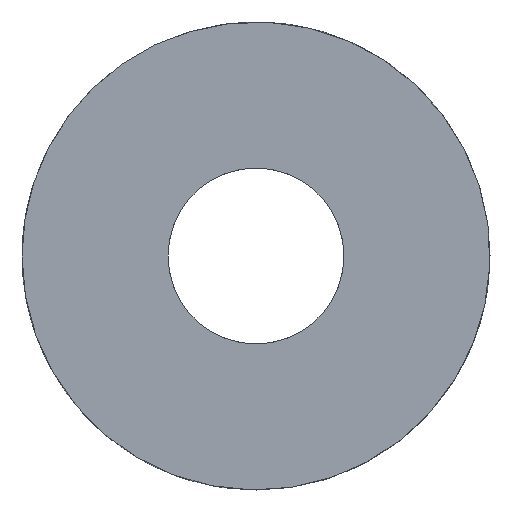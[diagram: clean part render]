
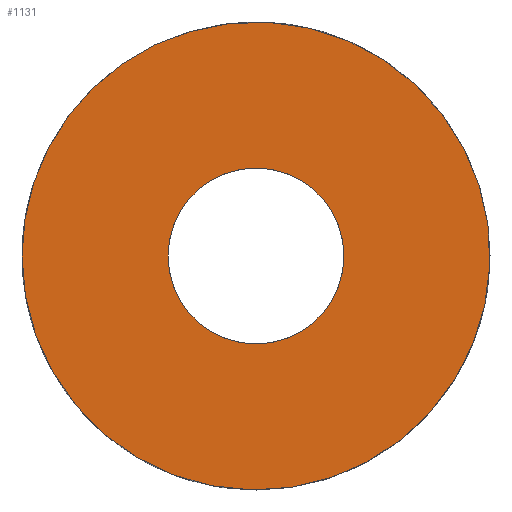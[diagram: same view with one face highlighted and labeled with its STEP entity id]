
A CAD part, front view. The second image highlights one B-rep face of the part: STEP entity #1131.
In plain terms, the highlighted planar face has unit normal (0, -1, 0).
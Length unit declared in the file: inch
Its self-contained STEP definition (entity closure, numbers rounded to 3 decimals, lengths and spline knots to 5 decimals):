
#15=FACE_BOUND('',#175,.T.);
#40=PLANE('',#1228);
#115=FACE_OUTER_BOUND('',#174,.T.);
#174=EDGE_LOOP('',(#1052,#1053));
#175=EDGE_LOOP('',(#1054));
#373=CIRCLE('',#1147,0.2);
#411=CIRCLE('',#1226,0.532);
#412=CIRCLE('',#1227,0.532);
#413=VERTEX_POINT('',#1461);
#528=VERTEX_POINT('',#2811);
#529=VERTEX_POINT('',#2813);
#530=EDGE_CURVE('',#413,#413,#373,.T.);
#703=EDGE_CURVE('',#528,#529,#411,.T.);
#704=EDGE_CURVE('',#529,#528,#412,.T.);
#1052=ORIENTED_EDGE('',*,*,#704,.F.);
#1053=ORIENTED_EDGE('',*,*,#703,.F.);
#1054=ORIENTED_EDGE('',*,*,#530,.T.);
#1131=ADVANCED_FACE('',(#115,#15),#40,.F.);
#1147=AXIS2_PLACEMENT_3D('',#1462,#1233,#1234);
#1226=AXIS2_PLACEMENT_3D('',#2814,#1453,#1454);
#1227=AXIS2_PLACEMENT_3D('',#2815,#1455,#1456);
#1228=AXIS2_PLACEMENT_3D('',#2816,#1457,#1458);
#1233=DIRECTION('center_axis',(0.,1.,0.));
#1234=DIRECTION('ref_axis',(1.,0.,0.));
#1453=DIRECTION('center_axis',(0.,1.,0.));
#1454=DIRECTION('ref_axis',(1.,0.,0.));
#1455=DIRECTION('center_axis',(0.,1.,0.));
#1456=DIRECTION('ref_axis',(1.,0.,0.));
#1457=DIRECTION('center_axis',(0.,1.,0.));
#1458=DIRECTION('ref_axis',(1.,0.,0.));
#1461=CARTESIAN_POINT('',(-0.2,0.,0.));
#1462=CARTESIAN_POINT('Origin',(0.,0.,0.));
#2811=CARTESIAN_POINT('',(-0.532,0.,0.));
#2813=CARTESIAN_POINT('',(-0.15,0.,0.51042));
#2814=CARTESIAN_POINT('Origin',(0.,0.,0.));
#2815=CARTESIAN_POINT('Origin',(0.,0.,0.));
#2816=CARTESIAN_POINT('Origin',(0.,0.,0.));
